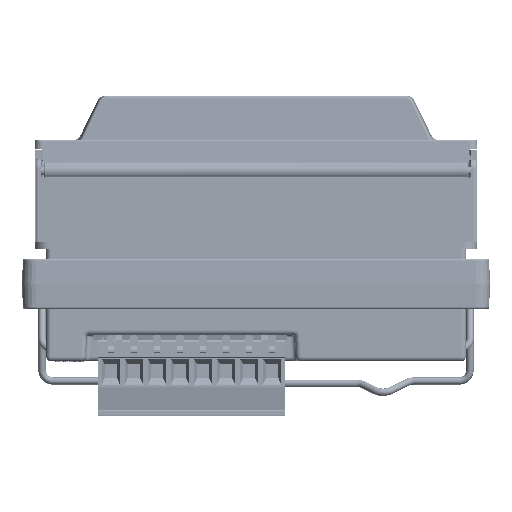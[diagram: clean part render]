
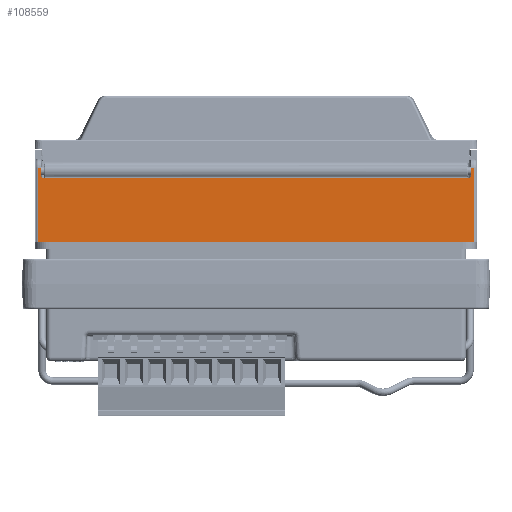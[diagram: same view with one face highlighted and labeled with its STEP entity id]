
A CAD part, front view. The second image highlights one B-rep face of the part: STEP entity #108559.
In plain terms, the highlighted planar face has unit normal (0, -1, 0).
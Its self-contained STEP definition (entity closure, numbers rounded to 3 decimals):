
#5762 = VECTOR ( 'NONE', #182167, 1000. ) ;
#26341 = CARTESIAN_POINT ( 'NONE',  ( -48., -24., -1.9 ) ) ;
#32389 = LINE ( 'NONE', #270100, #5762 ) ;
#35265 = ORIENTED_EDGE ( 'NONE', *, *, #127455, .T. ) ;
#38173 = VERTEX_POINT ( 'NONE', #371879 ) ;
#50428 = VECTOR ( 'NONE', #388544, 1000. ) ;
#50795 = ORIENTED_EDGE ( 'NONE', *, *, #257729, .T. ) ;
#52301 = VECTOR ( 'NONE', #366971, 1000. ) ;
#65031 = ORIENTED_EDGE ( 'NONE', *, *, #346698, .T. ) ;
#74806 = DIRECTION ( 'NONE',  ( 1., 0., 0. ) ) ;
#81752 = CARTESIAN_POINT ( 'NONE',  ( -47.3, -24., 14.2 ) ) ;
#82370 = CARTESIAN_POINT ( 'NONE',  ( -46.517, -24., 12.1 ) ) ;
#86243 = DIRECTION ( 'NONE',  ( 0., -1., 0. ) ) ;
#89244 = ORIENTED_EDGE ( 'NONE', *, *, #266882, .T. ) ;
#94102 = EDGE_CURVE ( 'NONE', #358702, #141040, #303229, .T. ) ;
#94537 = VECTOR ( 'NONE', #120142, 1000. ) ;
#99288 = CARTESIAN_POINT ( 'NONE',  ( -46.5, -24., 12.1 ) ) ;
#102078 = EDGE_LOOP ( 'NONE', ( #35265, #65031, #89244, #50795, #256332, #266450, #282430, #211500 ) ) ;
#108559 = ADVANCED_FACE ( 'NONE', ( #346062 ), #170211, .T. ) ;
#116879 = CARTESIAN_POINT ( 'NONE',  ( -47.3, -24., -1.9 ) ) ;
#118207 = LINE ( 'NONE', #385873, #94537 ) ;
#120142 = DIRECTION ( 'NONE',  ( 0.017, 0., -1. ) ) ;
#127455 = EDGE_CURVE ( 'NONE', #148823, #157767, #364466, .T. ) ;
#141040 = VERTEX_POINT ( 'NONE', #157573 ) ;
#148823 = VERTEX_POINT ( 'NONE', #327220 ) ;
#150914 = AXIS2_PLACEMENT_3D ( 'NONE', #26341, #86243, #178031 ) ;
#157246 = CARTESIAN_POINT ( 'NONE',  ( 46.589, -24., 14.2 ) ) ;
#157573 = CARTESIAN_POINT ( 'NONE',  ( 46.517, -24., 12.1 ) ) ;
#157767 = VERTEX_POINT ( 'NONE', #81752 ) ;
#162520 = VECTOR ( 'NONE', #225115, 1000. ) ;
#170211 = PLANE ( 'NONE',  #150914 ) ;
#174720 = VECTOR ( 'NONE', #74806, 1000. ) ;
#175461 = LINE ( 'NONE', #301317, #342171 ) ;
#178031 = DIRECTION ( 'NONE',  ( 0., 0., -1. ) ) ;
#182167 = DIRECTION ( 'NONE',  ( 0., 0., -1. ) ) ;
#191994 = VECTOR ( 'NONE', #354254, 1000. ) ;
#205100 = VERTEX_POINT ( 'NONE', #116879 ) ;
#211500 = ORIENTED_EDGE ( 'NONE', *, *, #217106, .F. ) ;
#217106 = EDGE_CURVE ( 'NONE', #148823, #358702, #118207, .T. ) ;
#225115 = DIRECTION ( 'NONE',  ( -1., 0., 0. ) ) ;
#231418 = CARTESIAN_POINT ( 'NONE',  ( 47.3, -24., 14.2 ) ) ;
#232472 = LINE ( 'NONE', #264323, #191994 ) ;
#248233 = VERTEX_POINT ( 'NONE', #273348 ) ;
#250660 = LINE ( 'NONE', #344490, #174720 ) ;
#252297 = EDGE_CURVE ( 'NONE', #283854, #38173, #340979, .T. ) ;
#256332 = ORIENTED_EDGE ( 'NONE', *, *, #252297, .T. ) ;
#257729 = EDGE_CURVE ( 'NONE', #248233, #283854, #232472, .T. ) ;
#264323 = CARTESIAN_POINT ( 'NONE',  ( 47.3, -24., 14.2 ) ) ;
#265394 = DIRECTION ( 'NONE',  ( -0.017, 0., -1. ) ) ;
#266450 = ORIENTED_EDGE ( 'NONE', *, *, #375053, .T. ) ;
#266882 = EDGE_CURVE ( 'NONE', #205100, #248233, #250660, .T. ) ;
#270100 = CARTESIAN_POINT ( 'NONE',  ( -47.3, -24., -1.9 ) ) ;
#273348 = CARTESIAN_POINT ( 'NONE',  ( 47.3, -24., -1.9 ) ) ;
#274598 = CARTESIAN_POINT ( 'NONE',  ( -47.8, -24., 14.2 ) ) ;
#282430 = ORIENTED_EDGE ( 'NONE', *, *, #94102, .F. ) ;
#283854 = VERTEX_POINT ( 'NONE', #231418 ) ;
#301317 = CARTESIAN_POINT ( 'NONE',  ( 46.244, -24., -3.545 ) ) ;
#303229 = LINE ( 'NONE', #99288, #52301 ) ;
#327220 = CARTESIAN_POINT ( 'NONE',  ( -46.554, -24., 14.2 ) ) ;
#340979 = LINE ( 'NONE', #157246, #162520 ) ;
#342171 = VECTOR ( 'NONE', #265394, 1000. ) ;
#344490 = CARTESIAN_POINT ( 'NONE',  ( -48., -24., -1.9 ) ) ;
#346062 = FACE_OUTER_BOUND ( 'NONE', #102078, .T. ) ;
#346698 = EDGE_CURVE ( 'NONE', #157767, #205100, #32389, .T. ) ;
#354254 = DIRECTION ( 'NONE',  ( 0., 0., 1. ) ) ;
#358702 = VERTEX_POINT ( 'NONE', #82370 ) ;
#364466 = LINE ( 'NONE', #274598, #50428 ) ;
#366971 = DIRECTION ( 'NONE',  ( 1., 0., 0. ) ) ;
#371879 = CARTESIAN_POINT ( 'NONE',  ( 46.554, -24., 14.2 ) ) ;
#375053 = EDGE_CURVE ( 'NONE', #38173, #141040, #175461, .T. ) ;
#385873 = CARTESIAN_POINT ( 'NONE',  ( -46.5, -24., 11.1 ) ) ;
#388544 = DIRECTION ( 'NONE',  ( -1., 0., 0. ) ) ;
